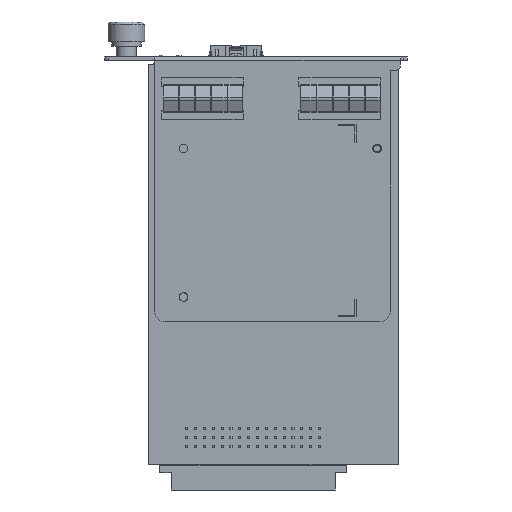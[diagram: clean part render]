
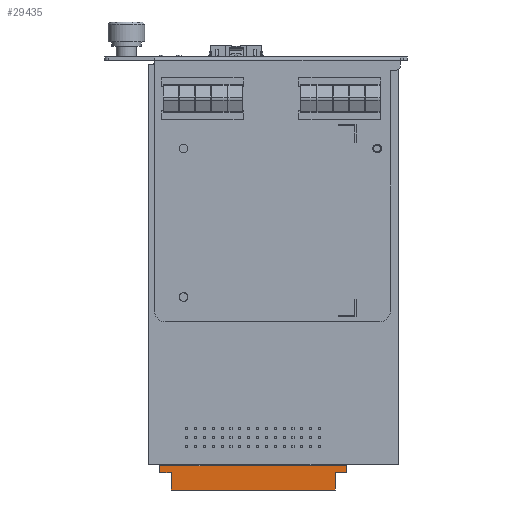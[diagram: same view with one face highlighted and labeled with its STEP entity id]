
A CAD part, front view. The second image highlights one B-rep face of the part: STEP entity #29435.
In plain terms, the highlighted planar face has unit normal (0, -1, 0).
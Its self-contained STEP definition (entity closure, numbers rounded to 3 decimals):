
#6424=DIRECTION('',(0.,0.,-1.));
#6425=VECTOR('',#6424,2.1);
#6426=CARTESIAN_POINT('',(-32.575,0.3,-56.5));
#6427=LINE('',#6426,#6425);
#7314=DIRECTION('',(0.,0.,1.));
#7315=VECTOR('',#7314,2.1);
#7316=CARTESIAN_POINT('',(20.925,0.3,-58.6));
#7317=LINE('',#7316,#7315);
#7376=DIRECTION('',(1.,0.,0.));
#7377=VECTOR('',#7376,47.1);
#7378=CARTESIAN_POINT('',(-29.375,0.3,-63.5));
#7379=LINE('',#7378,#7377);
#7388=DIRECTION('',(-1.,0.,0.));
#7389=VECTOR('',#7388,3.2);
#7390=CARTESIAN_POINT('',(20.925,0.3,-58.6));
#7391=LINE('',#7390,#7389);
#7392=DIRECTION('',(0.,0.,-1.));
#7393=VECTOR('',#7392,4.9);
#7394=CARTESIAN_POINT('',(17.725,0.3,-58.6));
#7395=LINE('',#7394,#7393);
#7396=DIRECTION('',(0.,0.,1.));
#7397=VECTOR('',#7396,4.9);
#7398=CARTESIAN_POINT('',(-29.375,0.3,-63.5));
#7399=LINE('',#7398,#7397);
#7400=DIRECTION('',(-1.,0.,0.));
#7401=VECTOR('',#7400,3.2);
#7402=CARTESIAN_POINT('',(-29.375,0.3,-58.6));
#7403=LINE('',#7402,#7401);
#7464=DIRECTION('',(1.,0.,0.));
#7465=VECTOR('',#7464,53.5);
#7466=CARTESIAN_POINT('',(-32.575,0.3,-56.5));
#7467=LINE('',#7466,#7465);
#11937=CARTESIAN_POINT('',(17.725,0.3,-58.6));
#11939=VERTEX_POINT('',#11937);
#11940=CARTESIAN_POINT('',(17.725,0.3,-63.5));
#11941=VERTEX_POINT('',#11940);
#11962=CARTESIAN_POINT('',(-32.575,0.3,-58.6));
#11963=VERTEX_POINT('',#11962);
#11964=CARTESIAN_POINT('',(-29.375,0.3,-58.6));
#11965=VERTEX_POINT('',#11964);
#11970=CARTESIAN_POINT('',(20.925,0.3,-58.6));
#11971=VERTEX_POINT('',#11970);
#11978=CARTESIAN_POINT('',(-29.375,0.3,-63.5));
#11979=VERTEX_POINT('',#11978);
#11988=CARTESIAN_POINT('',(-32.575,0.3,-56.5));
#11989=VERTEX_POINT('',#11988);
#11990=CARTESIAN_POINT('',(20.925,0.3,-56.5));
#11991=VERTEX_POINT('',#11990);
#29417=CARTESIAN_POINT('',(-5.825,0.3,-60.));
#29418=DIRECTION('',(0.,1.,0.));
#29419=DIRECTION('',(-1.,0.,0.));
#29420=AXIS2_PLACEMENT_3D('',#29417,#29418,#29419);
#29421=PLANE('',#29420);
#29423=ORIENTED_EDGE('',*,*,#29422,.T.);
#29425=ORIENTED_EDGE('',*,*,#29424,.T.);
#29426=ORIENTED_EDGE('',*,*,#29384,.F.);
#29427=ORIENTED_EDGE('',*,*,#27097,.T.);
#29428=ORIENTED_EDGE('',*,*,#27131,.T.);
#29429=ORIENTED_EDGE('',*,*,#27235,.F.);
#29431=ORIENTED_EDGE('',*,*,#29430,.T.);
#29432=ORIENTED_EDGE('',*,*,#29228,.F.);
#29433=EDGE_LOOP('',(#29423,#29425,#29426,#29427,#29428,#29429,#29431,#29432));
#29434=FACE_OUTER_BOUND('',#29433,.F.);
#27097=EDGE_CURVE('',#11979,#11965,#7399,.T.);
#27131=EDGE_CURVE('',#11965,#11963,#7403,.T.);
#27235=EDGE_CURVE('',#11989,#11963,#6427,.T.);
#29228=EDGE_CURVE('',#11971,#11991,#7317,.T.);
#29384=EDGE_CURVE('',#11979,#11941,#7379,.T.);
#29422=EDGE_CURVE('',#11971,#11939,#7391,.T.);
#29424=EDGE_CURVE('',#11939,#11941,#7395,.T.);
#29430=EDGE_CURVE('',#11989,#11991,#7467,.T.);
#29435=ADVANCED_FACE('',(#29434),#29421,.F.);
